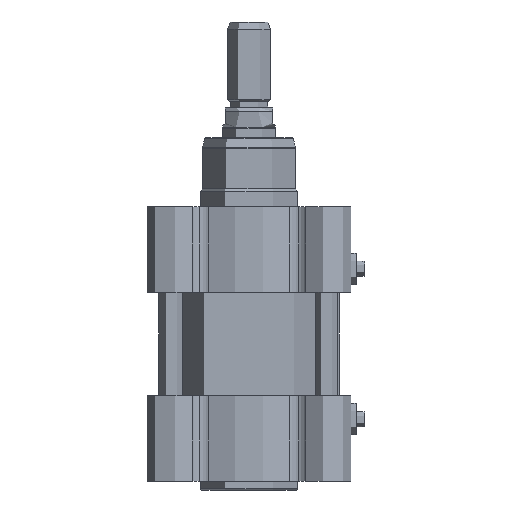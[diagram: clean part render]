
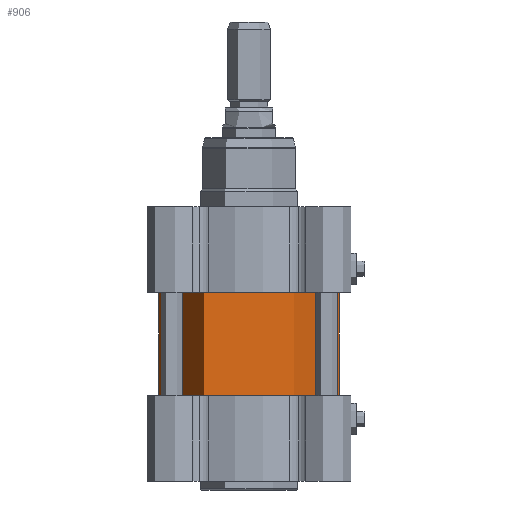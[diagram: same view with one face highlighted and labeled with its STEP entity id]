
A CAD part, front view. The second image highlights one B-rep face of the part: STEP entity #906.
In plain terms, the highlighted cylindrical face has radius 42 mm (diameter 84 mm), a partial arc.
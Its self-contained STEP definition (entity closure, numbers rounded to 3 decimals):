
#906=ADVANCED_FACE('',(#2408),#2409,.T.);
#2408=FACE_OUTER_BOUND('',#4626,.T.);
#2409=CYLINDRICAL_SURFACE('',#4627,42.0);
#4626=EDGE_LOOP('',(#6862,#6863,#6864,#6865));
#4627=AXIS2_PLACEMENT_3D('',#6866,#6867,#6868);
#6862=ORIENTED_EDGE('',*,*,#13078,.F.);
#6863=ORIENTED_EDGE('',*,*,#13076,.F.);
#6864=ORIENTED_EDGE('',*,*,#13079,.F.);
#6865=ORIENTED_EDGE('',*,*,#13080,.F.);
#6866=CARTESIAN_POINT('',(0.0,0.0,0.0));
#6867=DIRECTION('',(-0.0,0.0,-1.0));
#6868=DIRECTION('',(-1.0,0.0,0.0));
#13076=EDGE_CURVE('0:62',#15387,#15383,#15389,.T.);
#13078=EDGE_CURVE('',#15383,#15391,#15392,.T.);
#13079=EDGE_CURVE('',#15393,#15387,#15394,.T.);
#13080=EDGE_CURVE('',#15391,#15393,#15395,.T.);
#15383=VERTEX_POINT('',#18650);
#15387=VERTEX_POINT('',#18655);
#15389=CIRCLE('',#18658,42.0);
#15391=VERTEX_POINT('',#18660);
#15392=LINE('',#18661,#18662);
#15393=VERTEX_POINT('',#18663);
#15394=LINE('',#18664,#18665);
#15395=CIRCLE('',#18666,42.0);
#18650=CARTESIAN_POINT('',(-42.0,0.,0.2));
#18655=CARTESIAN_POINT('',(42.0,0.,0.2));
#18658=AXIS2_PLACEMENT_3D('',#23649,#23650,#23651);
#18660=CARTESIAN_POINT('',(-42.0,0.,47.8));
#18661=CARTESIAN_POINT('',(-42.0,0.,24.0));
#18662=VECTOR('',#23652,1.0);
#18663=CARTESIAN_POINT('',(42.0,0.,47.8));
#18664=CARTESIAN_POINT('',(42.0,0.,24.0));
#18665=VECTOR('',#23653,1.0);
#18666=AXIS2_PLACEMENT_3D('',#23654,#23655,#23656);
#23649=CARTESIAN_POINT('',(0.0,0.0,0.2));
#23650=DIRECTION('',(0.0,0.0,-1.0));
#23651=DIRECTION('',(-1.0,0.0,0.0));
#23652=DIRECTION('',(-0.0,-0.0,1.0));
#23653=DIRECTION('',(-0.0,-0.0,-1.0));
#23654=CARTESIAN_POINT('',(0.0,0.0,47.8));
#23655=DIRECTION('',(0.0,0.0,1.0));
#23656=DIRECTION('',(-1.0,0.0,0.0));
